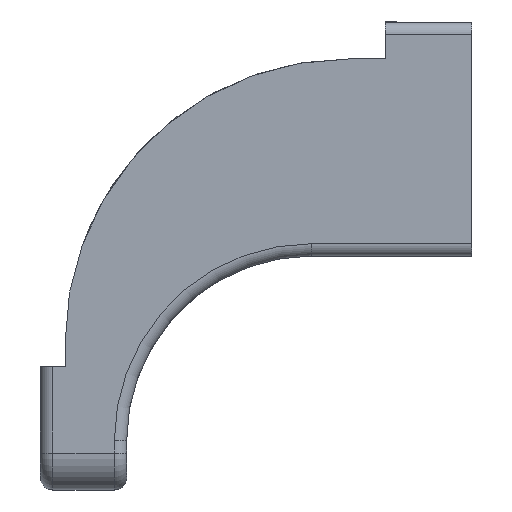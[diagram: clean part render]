
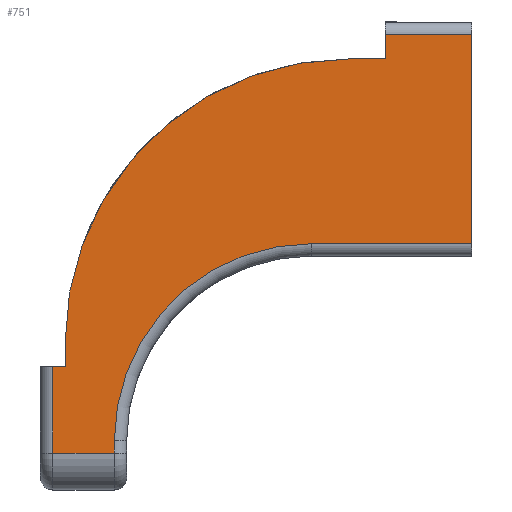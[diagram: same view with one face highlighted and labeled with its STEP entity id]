
A CAD part, left-side view. The second image highlights one B-rep face of the part: STEP entity #751.
In plain terms, the highlighted planar face has unit normal (-1, 0, 0).
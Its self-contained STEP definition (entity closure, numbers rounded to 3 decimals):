
#36 = ORIENTED_EDGE ( 'NONE', *, *, #40, .F. ) ;
#40 = EDGE_CURVE ( 'NONE', #4843, #2625, #65, .T. ) ;
#65 = LINE ( 'NONE', #3143, #5753 ) ;
#158 = EDGE_CURVE ( 'NONE', #260, #5432, #2889, .T. ) ;
#231 = EDGE_CURVE ( 'NONE', #6294, #5518, #1346, .T. ) ;
#260 = VERTEX_POINT ( 'NONE', #1957 ) ;
#286 = EDGE_CURVE ( 'NONE', #2536, #260, #4992, .T. ) ;
#356 = VECTOR ( 'NONE', #1889, 1000. ) ;
#401 = VERTEX_POINT ( 'NONE', #4458 ) ;
#423 = DIRECTION ( 'NONE',  ( 0., 0., 1. ) ) ;
#462 = CARTESIAN_POINT ( 'NONE',  ( -110., 7., 6.5 ) ) ;
#560 = CARTESIAN_POINT ( 'NONE',  ( -110., 29., -25.5 ) ) ;
#680 = EDGE_CURVE ( 'NONE', #6294, #1275, #5264, .T. ) ;
#751 = ADVANCED_FACE ( 'NONE', ( #4364 ), #4143, .T. ) ;
#773 = DIRECTION ( 'NONE',  ( 1., 0., 0. ) ) ;
#788 = CARTESIAN_POINT ( 'NONE',  ( -110., 7., 8.5 ) ) ;
#1020 = DIRECTION ( 'NONE',  ( 0., 0., 1. ) ) ;
#1053 = CARTESIAN_POINT ( 'NONE',  ( -110., 10., 6.5 ) ) ;
#1238 = AXIS2_PLACEMENT_3D ( 'NONE', #4660, #6550, #3465 ) ;
#1244 = ORIENTED_EDGE ( 'NONE', *, *, #6658, .T. ) ;
#1275 = VERTEX_POINT ( 'NONE', #4732 ) ;
#1287 = CARTESIAN_POINT ( 'NONE',  ( -110., 34., -18.5 ) ) ;
#1316 = DIRECTION ( 'NONE',  ( 0., 1., 0. ) ) ;
#1346 = LINE ( 'NONE', #3475, #2824 ) ;
#1627 = VERTEX_POINT ( 'NONE', #560 ) ;
#1889 = DIRECTION ( 'NONE',  ( 0., 0., -1. ) ) ;
#1938 = VECTOR ( 'NONE', #1316, 1000. ) ;
#1957 = CARTESIAN_POINT ( 'NONE',  ( -110., 13., -8.5 ) ) ;
#2005 = DIRECTION ( 'NONE',  ( 1., 0., 0. ) ) ;
#2045 = VECTOR ( 'NONE', #5905, 1000. ) ;
#2126 = EDGE_CURVE ( 'NONE', #3530, #4843, #5691, .T. ) ;
#2152 = CARTESIAN_POINT ( 'NONE',  ( -110., 0., -8.5 ) ) ;
#2186 = LINE ( 'NONE', #4165, #4028 ) ;
#2219 = ORIENTED_EDGE ( 'NONE', *, *, #3273, .T. ) ;
#2230 = ORIENTED_EDGE ( 'NONE', *, *, #2126, .F. ) ;
#2321 = LINE ( 'NONE', #3507, #4506 ) ;
#2435 = CARTESIAN_POINT ( 'NONE',  ( -110., 10., 6.5 ) ) ;
#2513 = DIRECTION ( 'NONE',  ( 0., 0., 1. ) ) ;
#2536 = VERTEX_POINT ( 'NONE', #3204 ) ;
#2537 = VERTEX_POINT ( 'NONE', #5829 ) ;
#2625 = VERTEX_POINT ( 'NONE', #3581 ) ;
#2824 = VECTOR ( 'NONE', #2987, 1000. ) ;
#2862 = ORIENTED_EDGE ( 'NONE', *, *, #5503, .T. ) ;
#2864 = DIRECTION ( 'NONE',  ( 0., 0., 1. ) ) ;
#2889 = LINE ( 'NONE', #2152, #5084 ) ;
#2905 = ORIENTED_EDGE ( 'NONE', *, *, #158, .T. ) ;
#2987 = DIRECTION ( 'NONE',  ( 0., -1., 0. ) ) ;
#3106 = ORIENTED_EDGE ( 'NONE', *, *, #286, .T. ) ;
#3109 = DIRECTION ( 'NONE',  ( 0., -1., 0. ) ) ;
#3143 = CARTESIAN_POINT ( 'NONE',  ( -110., 7., -15.5 ) ) ;
#3204 = CARTESIAN_POINT ( 'NONE',  ( -110., 29., -24.5 ) ) ;
#3273 = EDGE_CURVE ( 'NONE', #5432, #401, #4071, .T. ) ;
#3377 = AXIS2_PLACEMENT_3D ( 'NONE', #5095, #2005, #2513 ) ;
#3441 = CARTESIAN_POINT ( 'NONE',  ( -110., 10., -16.5 ) ) ;
#3465 = DIRECTION ( 'NONE',  ( 0., 0., 1. ) ) ;
#3468 = DIRECTION ( 'NONE',  ( 0., -1., 0. ) ) ;
#3475 = CARTESIAN_POINT ( 'NONE',  ( -110., 10., -18.5 ) ) ;
#3507 = CARTESIAN_POINT ( 'NONE',  ( -110., 33., -15.5 ) ) ;
#3530 = VERTEX_POINT ( 'NONE', #1053 ) ;
#3581 = CARTESIAN_POINT ( 'NONE',  ( -110., 7., 8.5 ) ) ;
#3618 = CIRCLE ( 'NONE', #4250, 23. ) ;
#3707 = ORIENTED_EDGE ( 'NONE', *, *, #231, .F. ) ;
#3721 = EDGE_LOOP ( 'NONE', ( #2219, #3948, #36, #2230, #4111, #6163, #3707, #5088, #1244, #2862, #3106, #2905 ) ) ;
#3887 = EDGE_CURVE ( 'NONE', #2537, #3530, #3618, .T. ) ;
#3910 = CARTESIAN_POINT ( 'NONE',  ( -110., 0., -9.5 ) ) ;
#3948 = ORIENTED_EDGE ( 'NONE', *, *, #4603, .T. ) ;
#3991 = CARTESIAN_POINT ( 'NONE',  ( -110., 0., -8.5 ) ) ;
#4028 = VECTOR ( 'NONE', #5045, 1000. ) ;
#4071 = LINE ( 'NONE', #3910, #2045 ) ;
#4111 = ORIENTED_EDGE ( 'NONE', *, *, #3887, .F. ) ;
#4143 = PLANE ( 'NONE',  #1238 ) ;
#4165 = CARTESIAN_POINT ( 'NONE',  ( -110., 29., -24.5 ) ) ;
#4250 = AXIS2_PLACEMENT_3D ( 'NONE', #3441, #773, #2864 ) ;
#4364 = FACE_OUTER_BOUND ( 'NONE', #3721, .T. ) ;
#4444 = CARTESIAN_POINT ( 'NONE',  ( -110., 34., -25.5 ) ) ;
#4458 = CARTESIAN_POINT ( 'NONE',  ( -110., 0., 8.5 ) ) ;
#4506 = VECTOR ( 'NONE', #423, 1000. ) ;
#4510 = CARTESIAN_POINT ( 'NONE',  ( -110., 33., -18.5 ) ) ;
#4521 = LINE ( 'NONE', #788, #1938 ) ;
#4603 = EDGE_CURVE ( 'NONE', #401, #2625, #4521, .T. ) ;
#4660 = CARTESIAN_POINT ( 'NONE',  ( -110., 10., -15.5 ) ) ;
#4732 = CARTESIAN_POINT ( 'NONE',  ( -110., 34., -25.5 ) ) ;
#4774 = VECTOR ( 'NONE', #3109, 1000. ) ;
#4843 = VERTEX_POINT ( 'NONE', #462 ) ;
#4992 = CIRCLE ( 'NONE', #3377, 16. ) ;
#5045 = DIRECTION ( 'NONE',  ( 0., 0., 1. ) ) ;
#5084 = VECTOR ( 'NONE', #6291, 1000. ) ;
#5088 = ORIENTED_EDGE ( 'NONE', *, *, #680, .T. ) ;
#5095 = CARTESIAN_POINT ( 'NONE',  ( -110., 13., -24.5 ) ) ;
#5215 = VECTOR ( 'NONE', #3468, 1000. ) ;
#5264 = LINE ( 'NONE', #4444, #356 ) ;
#5432 = VERTEX_POINT ( 'NONE', #3991 ) ;
#5467 = LINE ( 'NONE', #6102, #4774 ) ;
#5503 = EDGE_CURVE ( 'NONE', #1627, #2536, #2186, .T. ) ;
#5518 = VERTEX_POINT ( 'NONE', #4510 ) ;
#5691 = LINE ( 'NONE', #2435, #5215 ) ;
#5721 = EDGE_CURVE ( 'NONE', #5518, #2537, #2321, .T. ) ;
#5753 = VECTOR ( 'NONE', #1020, 1000. ) ;
#5829 = CARTESIAN_POINT ( 'NONE',  ( -110., 33., -16.5 ) ) ;
#5905 = DIRECTION ( 'NONE',  ( 0., 0., 1. ) ) ;
#6102 = CARTESIAN_POINT ( 'NONE',  ( -110., 28., -25.5 ) ) ;
#6163 = ORIENTED_EDGE ( 'NONE', *, *, #5721, .F. ) ;
#6291 = DIRECTION ( 'NONE',  ( 0., -1., 0. ) ) ;
#6294 = VERTEX_POINT ( 'NONE', #1287 ) ;
#6550 = DIRECTION ( 'NONE',  ( -1., 0., 0. ) ) ;
#6658 = EDGE_CURVE ( 'NONE', #1275, #1627, #5467, .T. ) ;
